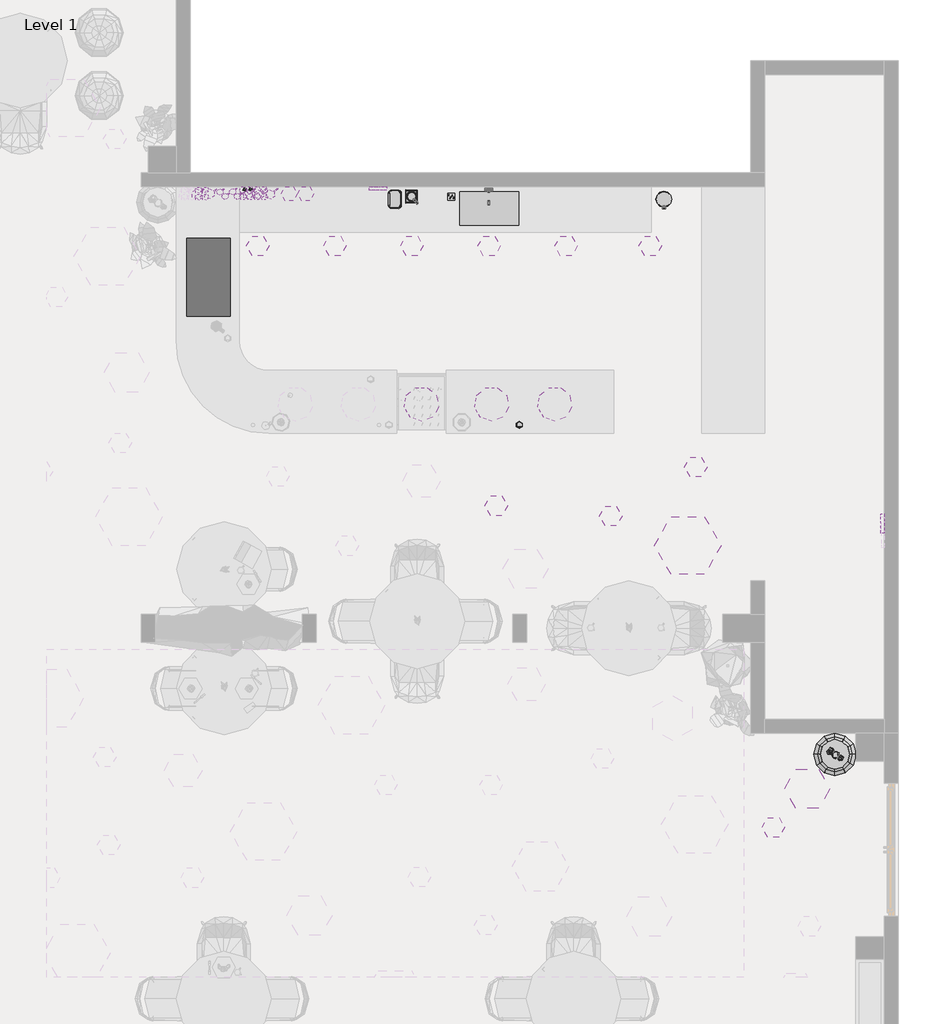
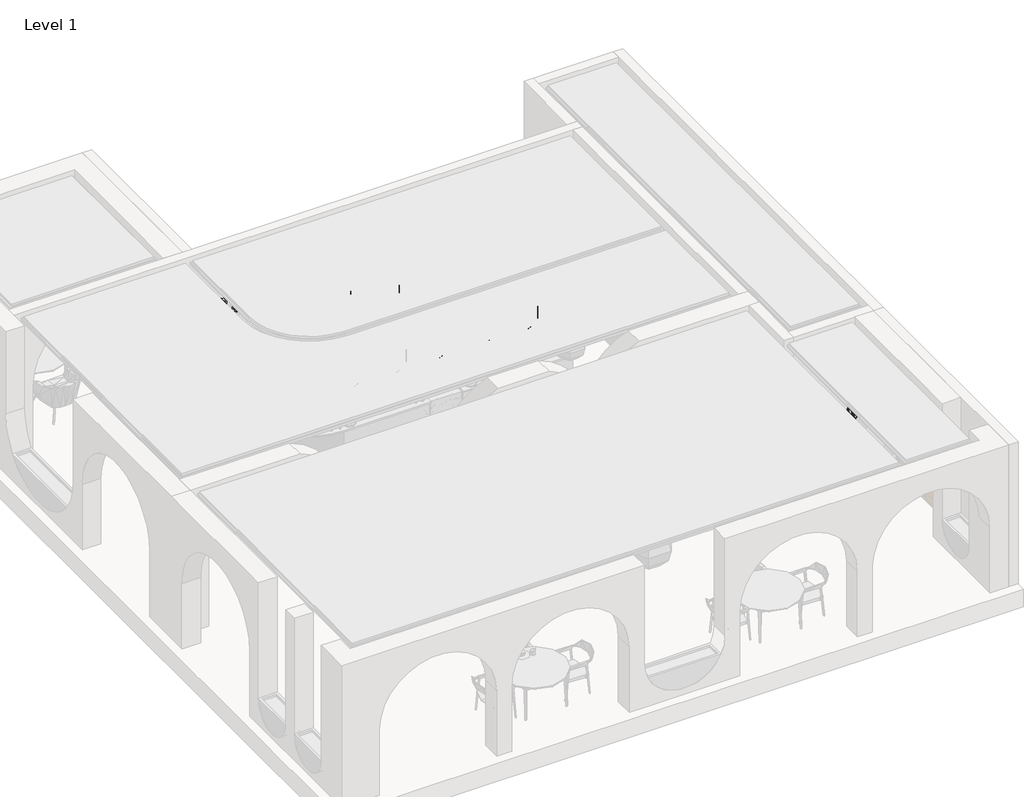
# One storey, part 5 of 5: 62 geographic elements, 2 proxies.
"""IFC4 building model written with IfcOpenShell, lengths in millimetres."""

from ifc_helpers import new_model, si_unit, frame, origin, place, context, project, spatial, polyline, outline, extrude, transform, mapped, element, save
from components import geographic_element_da99fc47, geographic_element_7c99d2c4, geographic_element_02dd20bf, geographic_element_f51f05aa, geographic_element_73b1dc01, geographic_element_66572eef, geographic_element_eaedea96, enscape_assetdefinition_basket_003_enscape_assetdefinition_82603852, enscape_assetdefinition_coffee_maker_001_enscape_8fe14100, enscape_assetdefinition_coffee_maker_003_enscape_548c8cb7, enscape_assetdefinition_coffee_maker_005_enscape_c3ac5309, enscape_assetdefinition_cup_001_enscape_assetdefinition_cup_e3f5b286, enscape_assetdefinition_cup_009_paper_big_enscape_90dbc6f4, enscape_assetdefinition_faucet_010_enscape_assetdefinition_639291e5, enscape_assetdefinition_floor_lamp_016_enscape_4e544922, enscape_assetdefinition_floor_lamp_016_enscape_559c5179, enscape_assetdefinition_floor_lamp_016_enscape_838fbf4e, enscape_assetdefinition_glass_006_enscape_assetdefinition_72c5cc0c, enscape_assetdefinition_kitchen_appliance_013_toaster_69132773, enscape_assetdefinition_pendant_lamp_001_enscape_e6839370, enscape_assetdefinition_plate_004_stack_enscape_c0378672, enscape_assetdefinition_refrigerator_002_enscape_642a04e6, enscape_assetdefinition_sink_010_enscape_assetdefinition_5691a6b0

model = new_model("IFC4")

# Units and contexts
model_context = context("Model", 3, world=origin())
ifc_project = project(units=[si_unit("LENGTHUNIT", "METRE", prefix="MILLI")], contexts=[model_context])

# Site, building, storey
site = spatial("IfcSite", under=ifc_project)
building = spatial("IfcBuilding", under=site)
storey = spatial("IfcBuildingStorey", under=building, Name="Level 1", Elevation=0.0)

# Proxies
placement = place(None, origin())
element("IfcBuildingElementProxy", 1, Name="24\" Arial", ObjectType="24\" Arial", at=placement, inside=storey, context=model_context, shape_type="SweptSolid", body=[
    extrude(outline(polyline([(2009.3473185, 18144.6647483), (2009.3473185, 17967.1264335), (1709.3989174, 17967.1264335), (1709.3989174, 18144.6647483), (1724.650531, 18144.6647483), (1724.650531, 17987.4619183), (1851.7473112, 17987.4619183), (1851.7473112, 18118.2921664), (1866.9989248, 18118.2921664), (1866.9989248, 17987.4619183), (1994.0957049, 17987.4619183), (1994.0957049, 18144.6647483), (2009.3473185, 18144.6647483)])), frame((0.0, 9260.3600826, 0.0), z_axis=(0.0, 1.0, 0.0), x_axis=(0.0, 0.0, 1.0)), (0.0, 0.0, 1.0), 50.0),
    extrude(outline(polyline([(1724.650531, 18236.5716074), (2009.3473185, 18236.5716074), (2009.3473185, 18216.2361226), (1709.3989174, 18216.2361226), (1709.3989174, 18378.1256463), (1724.650531, 18378.1256463), (1724.650531, 18236.5716074)])), frame((0.0, 9260.3600826, 0.0), z_axis=(0.0, 1.0, 0.0), x_axis=(0.0, 0.0, 1.0)), (0.0, 0.0, 1.0), 50.0),
    extrude(outline(polyline([(1754.5977098, 18723.9877593), (1754.0813792, 18721.7635656), (1752.6912581, 18719.7776784), (1738.3928704, 18701.8252582), (1728.0265392, 18682.2046928), (1721.6717002, 18659.0889659), (1719.5666598, 18630.5716259), (1721.9199361, 18605.9267658), (1728.9797651, 18583.1486398), (1740.4383342, 18562.7635078), (1755.9878309, 18545.2976299), (1775.5488197, 18531.019101), (1799.0418651, 18520.1960158), (1826.2385902, 18513.3744933), (1856.9106179, 18511.1006525), (1886.9074439, 18513.3943522), (1913.8261447, 18520.2754513), (1937.3191902, 18531.2772664), (1957.03905, 18545.9331138), (1972.8169237, 18563.9848284), (1984.4840109, 18585.1742447), (1991.6927814, 18609.0545382), (1994.0957049, 18635.1788841), (1991.8715113, 18661.551466), (1986.3904626, 18682.0061041), (1979.2412687, 18697.2974354), (1972.0523571, 18708.2595327), (1966.5713085, 18715.7661863), (1964.3868326, 18720.6514688), (1966.8493327, 18725.894211), (1976.3815912, 18732.4079209), (1991.5537693, 18712.1915894), (2001.6420763, 18690.1085238), (2007.3614314, 18664.8877565), (2009.3473185, 18635.1788841), (2006.5770059, 18604.0898202), (1998.266068, 18575.8008572), (1984.9209061, 18550.8084669), (1967.0479214, 18529.6091211), (1944.944997, 18512.6893623), (1918.9100159, 18500.5357327), (1889.4096617, 18493.2078089), (1856.9106179, 18490.7651677), (1823.9349611, 18493.1383029), (1794.1168649, 18500.2577085), (1767.9528012, 18511.9744429), (1745.9392417, 18528.1395646), (1728.2747751, 18548.3956139), (1715.1579903, 18572.3851312), (1707.0257822, 18599.5421385), (1704.3150462, 18629.3006581), (1706.8172641, 18663.3387645), (1713.9267402, 18691.8163868), (1726.3186763, 18715.7661863), (1744.03279, 18736.0619534), (1753.1678711, 18727.5623562), (1754.5977098, 18723.9877593)])), frame((0.0, 9260.3600826, 0.0), z_axis=(0.0, 1.0, 0.0), x_axis=(0.0, 0.0, 1.0)), (0.0, 0.0, 1.0), 50.0),
    extrude(outline(polyline([(1709.3989174, 18924.4034945), (1709.3989174, 18933.0619626), (1846.1073915, 18933.0619626), (1877.8815866, 18928.8915995), (1902.149128, 18916.4202279), (1917.5596126, 18895.5684125), (1922.921508, 18866.2567175), (1920.9356209, 18844.6006177), (1914.9779593, 18825.3871592), (1904.9095112, 18807.7822692), (1890.5912646, 18790.9518753), (1884.4747321, 18794.5264722), (1880.6618286, 18800.8813112), (1884.9116272, 18808.5468358), (1894.2055793, 18820.4224412), (1903.4598136, 18838.2159904), (1907.6698944, 18863.6353464), (1903.7974144, 18885.013422), (1892.1799743, 18900.3742595), (1873.3736227, 18909.6384232), (1847.9344078, 18912.7264778), (1826.3279551, 18912.7264778), (1820.2114226, 18852.4746604), (1806.2704945, 18811.4859488), (1796.8077421, 18797.664174), (1785.8158565, 18788.05248), (1773.5629325, 18782.4224898), (1760.3170649, 18780.5458264), (1734.8977089, 18785.1928024), (1717.5807726, 18797.505303), (1707.5719012, 18815.1002635), (1704.3150462, 18835.5946193), (1707.6116189, 18858.750064), (1715.5154499, 18878.3706294), (1726.8747247, 18895.8464367), (1742.1263383, 18912.7264778), (1715.2771435, 18915.9038973), (1710.8684739, 18918.8231514), (1709.3989174, 18924.4034945)]), holes=[polyline([(1719.5666598, 18841.6317164), (1721.9100067, 18826.2212318), (1729.297507, 18813.2732473), (1742.166056, 18804.2970372), (1760.7142424, 18800.8813112), (1771.4578921, 18802.4998093), (1780.9702917, 18807.3553035), (1796.3013408, 18827.5319173), (1806.4690832, 18862.3643786), (1811.0763415, 18912.7264778), (1755.5509357, 18912.7264778), (1741.2128302, 18898.1103481), (1729.7344022, 18882.1438151), (1722.2277486, 18863.5956287), (1719.5666598, 18841.6317164)])]), frame((0.0, 9260.3600826, 0.0), z_axis=(0.0, 1.0, 0.0), x_axis=(0.0, 0.0, 1.0)), (0.0, 0.0, 1.0), 50.0),
    extrude(outline(polyline([(1709.3989174, 19004.2361595), (1709.3989174, 19024.5716443), (1897.502152, 19024.5716443), (1897.502152, 19092.2506797), (1912.7537656, 19092.2506797), (1912.7537656, 19024.5716443), (1938.1731217, 19024.5716443), (1964.2676793, 19028.027088), (1981.5051801, 19037.8373707), (1991.1168741, 19052.9301134), (1994.0957049, 19071.9946304), (1993.460221, 19082.6787035), (1992.8247371, 19089.5498732), (1995.6844147, 19093.5216475), (2005.0578022, 19094.1571314), (2008.2352217, 19082.440397), (2009.3473185, 19069.2938238), (2004.938649, 19043.0006774), (1991.6729226, 19022.4666039), (1969.5104215, 19009.0420065), (1938.7291701, 19004.2361595), (1912.7537656, 19004.2361595), (1912.7537656, 18968.5696256), (1904.4924749, 18968.5696256), (1900.759007, 18970.0987587), (1899.2497327, 18974.6861581), (1897.343281, 19004.2361595), (1709.3989174, 19004.2361595)])), frame((0.0, 9260.3600826, 0.0), z_axis=(0.0, 1.0, 0.0), x_axis=(0.0, 0.0, 1.0)), (0.0, 0.0, 1.0), 50.0),
    extrude(outline(polyline([(1922.921508, 19213.5486693), (1920.9455503, 19192.9252308), (1915.017677, 19174.5855626), (1905.5946423, 19158.7282534), (1893.1332002, 19145.5518919), (1877.82201, 19135.1061253), (1859.8497309, 19127.4406007), (1839.6532582, 19122.7340481), (1817.669487, 19121.1651972), (1792.09126, 19122.9227074), (1769.5315815, 19128.1952379), (1750.1195342, 19136.6551173), (1733.9842008, 19147.9746743), (1721.2149462, 19161.9652495), (1711.9011353, 19178.4381838), (1706.2115685, 19197.1055234), (1704.3150462, 19217.6793146), (1706.5392398, 19241.2319367), (1712.4571837, 19263.1561313), (1721.552547, 19281.7043176), (1733.3089992, 19295.128915), (1740.0610156, 19289.6478664), (1742.2057738, 19285.4377856), (1738.7106123, 19278.6460514), (1730.8862168, 19266.0952443), (1723.0618213, 19246.5938321), (1719.5666598, 19219.1885889), (1721.1255813, 19202.3085478), (1725.8023456, 19187.0966519), (1733.5572351, 19173.7912077), (1744.3505319, 19162.6305217), (1758.1425185, 19153.6840999), (1774.8934769, 19147.0214484), (1817.1928741, 19141.500682), (1821.2440839, 19141.500682), (1821.2440839, 19288.5357696), (1822.9519469, 19292.7061327), (1829.4259392, 19294.0168182), (1850.6352143, 19292.4976145), (1869.3025539, 19287.9400034), (1885.3187341, 19280.6815857), (1898.5745311, 19271.0599623), (1909.0401566, 19259.2836513), (1916.6858223, 19245.5611708), (1921.3625866, 19230.2102628), (1922.921508, 19213.5486693)]), holes=[polyline([(1907.6698944, 19212.4365725), (1902.7846119, 19237.3793156), (1888.7245306, 19256.7218568), (1866.3634409, 19269.2329461), (1836.4956975, 19273.6813334), (1836.4956975, 19141.500682), (1865.8073925, 19148.8484646), (1888.2876355, 19163.3454411), (1902.6654587, 19184.6341518), (1907.6698944, 19212.4365725)])]), frame((0.0, 9260.3600826, 0.0), z_axis=(0.0, 1.0, 0.0), x_axis=(0.0, 0.0, 1.0)), (0.0, 0.0, 1.0), 50.0),
])
element("IfcBuildingElementProxy", 2, Name="24\" Arial 2", ObjectType="24\" Arial 2", at=placement, inside=storey, context=model_context, shape_type="SweptSolid", body=[
    extrude(outline(polyline([(4642.2411755, 2227.7660995), (4579.1811135, 2026.825345), (4566.3562401, 2026.825345), (4507.1276756, 2200.413465), (4505.1587116, 2207.5975227), (4503.1365324, 2200.413465), (4444.0676136, 2026.825345), (4431.0830945, 2026.825345), (4368.1826783, 2227.7660995), (4379.1982334, 2227.7660995), (4382.6572242, 2226.6485794), (4384.5729729, 2223.9878173), (4435.0210225, 2059.6059342), (4436.4312264, 2053.5660042), (4437.7349998, 2046.9939218), (4439.198419, 2053.6458271), (4440.9811296, 2059.6059342), (4497.4957168, 2223.9878173), (4499.4646807, 2226.7017946), (4502.7108105, 2227.7660995), (4506.7019537, 2227.7660995), (4510.0811215, 2226.6485794), (4512.0766931, 2223.9878173), (4568.5912803, 2059.6059342), (4570.294168, 2053.4861814), (4571.7309796, 2046.7278456), (4573.0613606, 2053.4861814), (4574.5513874, 2059.6059342), (4624.999437, 2223.9878173), (4630.2145307, 2227.7660995), (4642.2411755, 2227.7660995)])), frame((25785.1576528, 0.0, 0.0), z_axis=(1.0, 0.0, 0.0), x_axis=(0.0, 1.0, 0.0)), (0.0, 0.0, 1.0), 50.0),
    extrude(outline(polyline([(4192.8384553, 2056.9318683), (4194.9138498, 2055.827652), (4206.9404945, 2046.2489084), (4220.0846593, 2039.3043193), (4235.5702948, 2035.0471), (4254.6745667, 2033.636896), (4271.1845956, 2035.2133976), (4286.4440663, 2039.9429022), (4300.1004278, 2047.6192009), (4311.8011292, 2058.0360846), (4321.366569, 2071.140338), (4328.6171457, 2086.8787458), (4333.1870047, 2105.0983144), (4334.710291, 2125.6460497), (4333.1737008, 2145.7414556), (4328.5639305, 2163.7747708), (4321.1936195, 2179.5131786), (4311.3754073, 2192.7238625), (4299.2822435, 2203.29374), (4285.0870776, 2211.1097287), (4269.0892455, 2215.9390119), (4251.5880827, 2217.548773), (4233.9206223, 2216.0587462), (4220.2176974, 2212.3868945), (4209.9737633, 2207.5975227), (4202.6300599, 2202.7815433), (4197.6012195, 2199.1096916), (4194.3284821, 2197.6462724), (4190.8162761, 2199.2959449), (4186.4526263, 2205.681774), (4199.9959054, 2215.8458852), (4214.7897427, 2222.604221), (4231.6855821, 2226.4357184), (4251.5880827, 2227.7660995), (4272.4151981, 2225.9102179), (4291.3664762, 2220.3425732), (4308.1093218, 2211.4024125), (4322.3111395, 2199.428983), (4333.6459861, 2184.6218419), (4341.7879182, 2167.1805463), (4346.6970243, 2147.4177357), (4348.333393, 2125.6460497), (4346.7435876, 2103.5550723), (4341.9741715, 2083.5794008), (4334.1249233, 2066.0516304), (4323.2956215, 2051.3043564), (4309.7257348, 2039.470617), (4293.6547316, 2030.6834501), (4275.4617707, 2025.2355397), (4255.5260106, 2023.4195695), (4232.7232794, 2025.0958497), (4213.645615, 2029.8586138), (4197.6012195, 2038.1601916), (4184.0047251, 2050.0271906), (4189.6987561, 2056.1469435), (4192.8384553, 2056.9318683)])), frame((25785.1576528, 0.0, 0.0), z_axis=(1.0, 0.0, 0.0), x_axis=(0.0, 1.0, 0.0)), (0.0, 0.0, 1.0), 50.0),
])

# Geographic elements
geographic_element_shape = geographic_element_da99fc47(model_context)
element("IfcGeographicElement", 3, ObjectType="Enscape AssetDefinition - Food 022 Pastry : Enscape AssetDefinition - Food 022 Pastry", at=placement, inside=storey, context=model_context, shape_type="MappedRepresentation", body=[
    mapped(geographic_element_shape, transform((19505.1689379, 6226.4243187, 564.8412029), x_axis=(-1.0, 0.0, 0.0), y_axis=(0.0, -0.9822819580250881, -0.18740905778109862), z_axis=(0.0, -0.18740905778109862, 0.9822819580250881))),
])
element("IfcGeographicElement", 4, ObjectType="Enscape AssetDefinition - Food 022 Pastry : Enscape AssetDefinition - Food 022 Pastry", at=placement, inside=storey, context=model_context, shape_type="MappedRepresentation", body=[
    mapped(geographic_element_shape, transform((19506.0066809, 6315.630467, 581.860797), x_axis=(-1.0, 0.0, 0.0), y_axis=(0.0, -0.9822819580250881, -0.18740905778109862), z_axis=(0.0, -0.18740905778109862, 0.9822819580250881))),
])
geographic_element_2_shape = geographic_element_7c99d2c4(model_context)
element("IfcGeographicElement", 5, ObjectType="Enscape AssetDefinition - Food 019 Pastry : Enscape AssetDefinition - Food 019 Pastry", at=placement, inside=storey, context=model_context, shape_type="MappedRepresentation", body=[
    mapped(geographic_element_2_shape, transform((19140.8430531, 6257.7496797, 425.8177521), x_axis=(-1.0, 0.0, 0.0), y_axis=(0.0, -0.982281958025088, -0.18740905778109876), z_axis=(0.0, -0.18740905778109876, 0.982281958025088))),
])
element("IfcGeographicElement", 6, ObjectType="Enscape AssetDefinition - Food 019 Pastry : Enscape AssetDefinition - Food 019 Pastry", at=placement, inside=storey, context=model_context, shape_type="MappedRepresentation", body=[
    mapped(geographic_element_2_shape, transform((19142.4940629, 6426.3937052, 457.9932569), x_axis=(-1.0, 0.0, 0.0), y_axis=(0.0, -0.982281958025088, -0.18740905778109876), z_axis=(0.0, -0.18740905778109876, 0.982281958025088))),
])
element("IfcGeographicElement", 7, ObjectType="Enscape AssetDefinition - Food 019 Pastry : Enscape AssetDefinition - Food 019 Pastry", at=placement, inside=storey, context=model_context, shape_type="MappedRepresentation", body=[
    mapped(geographic_element_2_shape, transform((19139.6363829, 6092.9631165, 394.3782104), x_axis=(-1.0, 0.0, 0.0), y_axis=(0.0, -0.982281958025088, -0.18740905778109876), z_axis=(0.0, -0.18740905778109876, 0.982281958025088))),
])
element("IfcGeographicElement", 8, ObjectType="Enscape AssetDefinition - Food 019 Pastry : Enscape AssetDefinition - Food 019 Pastry", at=placement, inside=storey, context=model_context, shape_type="MappedRepresentation", body=[
    mapped(geographic_element_2_shape, transform((19304.5930531, 6257.7496797, 425.8177521), x_axis=(-1.0, 0.0, 0.0), y_axis=(0.0, -0.982281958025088, -0.18740905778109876), z_axis=(0.0, -0.18740905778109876, 0.982281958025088))),
])
element("IfcGeographicElement", 9, ObjectType="Enscape AssetDefinition - Food 019 Pastry : Enscape AssetDefinition - Food 019 Pastry", at=placement, inside=storey, context=model_context, shape_type="MappedRepresentation", body=[
    mapped(geographic_element_2_shape, transform((19306.2440629, 6426.3937052, 457.9932569), x_axis=(-1.0, 0.0, 0.0), y_axis=(0.0, -0.982281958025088, -0.18740905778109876), z_axis=(0.0, -0.18740905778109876, 0.982281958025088))),
])
element("IfcGeographicElement", 10, ObjectType="Enscape AssetDefinition - Food 019 Pastry : Enscape AssetDefinition - Food 019 Pastry", at=placement, inside=storey, context=model_context, shape_type="MappedRepresentation", body=[
    mapped(geographic_element_2_shape, transform((19303.3863829, 6092.9631165, 394.3782104), x_axis=(-1.0, 0.0, 0.0), y_axis=(0.0, -0.982281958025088, -0.18740905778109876), z_axis=(0.0, -0.18740905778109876, 0.982281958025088))),
])
element("IfcGeographicElement", 11, ObjectType="Enscape AssetDefinition - Food 019 Pastry : Enscape AssetDefinition - Food 019 Pastry", at=placement, inside=storey, context=model_context, shape_type="MappedRepresentation", body=[
    mapped(geographic_element_2_shape, transform((19469.5930531, 6257.7496797, 425.8177521), x_axis=(-1.0, 0.0, 0.0), y_axis=(0.0, -0.982281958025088, -0.18740905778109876), z_axis=(0.0, -0.18740905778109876, 0.982281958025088))),
])
element("IfcGeographicElement", 12, ObjectType="Enscape AssetDefinition - Food 019 Pastry : Enscape AssetDefinition - Food 019 Pastry", at=placement, inside=storey, context=model_context, shape_type="MappedRepresentation", body=[
    mapped(geographic_element_2_shape, transform((19471.2440629, 6426.3937052, 457.9932569), x_axis=(-1.0, 0.0, 0.0), y_axis=(0.0, -0.982281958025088, -0.18740905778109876), z_axis=(0.0, -0.18740905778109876, 0.982281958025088))),
])
element("IfcGeographicElement", 13, ObjectType="Enscape AssetDefinition - Food 019 Pastry : Enscape AssetDefinition - Food 019 Pastry", at=placement, inside=storey, context=model_context, shape_type="MappedRepresentation", body=[
    mapped(geographic_element_2_shape, transform((19468.3863829, 6092.9631165, 394.3782104), x_axis=(-1.0, 0.0, 0.0), y_axis=(0.0, -0.982281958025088, -0.18740905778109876), z_axis=(0.0, -0.18740905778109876, 0.982281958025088))),
])
geographic_element_3_shape = geographic_element_02dd20bf(model_context)
element("IfcGeographicElement", 14, ObjectType="Enscape AssetDefinition - Kitchen Appliance 005 Blender : Enscape AssetDefinition - Kitchen Appliance 005 Blender", at=placement, inside=storey, context=model_context, shape_type="MappedRepresentation", body=[
    mapped(geographic_element_3_shape, transform((19095.1576528, 9170.3600826, 880.0), x_axis=(1.0, 0.0, 0.0), y_axis=(0.0, 1.0, 0.0), z_axis=(0.0, 0.0, 1.0))),
])
geographic_element_4_shape = geographic_element_f51f05aa(model_context)
element("IfcGeographicElement", 15, ObjectType="Enscape AssetDefinition - Grinder 003 Pepper : Enscape AssetDefinition - Grinder 003 Pepper", at=placement, inside=storey, context=model_context, shape_type="MappedRepresentation", body=[
    mapped(geographic_element_4_shape, transform((16795.1576528, 9270.3600826, 880.0), x_axis=(1.0, 0.0, 0.0), y_axis=(0.0, 1.0, 0.0), z_axis=(0.0, 0.0, 1.0))),
])
element("IfcGeographicElement", 16, ObjectType="Enscape AssetDefinition - Grinder 003 Pepper : Enscape AssetDefinition - Grinder 003 Pepper", at=placement, inside=storey, context=model_context, shape_type="MappedRepresentation", body=[
    mapped(geographic_element_4_shape, transform((16715.1576528, 9270.3600826, 880.0), x_axis=(1.0, 0.0, 0.0), y_axis=(0.0, 1.0, 0.0), z_axis=(0.0, 0.0, 1.0))),
])
geographic_element_5_shape = geographic_element_73b1dc01(model_context)
element("IfcGeographicElement", 17, ObjectType="Enscape AssetDefinition - Garbage Can 006 Bathroom : Enscape AssetDefinition - Garbage Can 006 Bathroom", at=placement, inside=storey, context=model_context, shape_type="MappedRepresentation", body=[
    mapped(geographic_element_5_shape, transform((22695.1576528, 9130.3600826, 0.0), x_axis=(1.0, 0.0, 0.0), y_axis=(0.0, 1.0, 0.0), z_axis=(0.0, 0.0, 1.0))),
])
geographic_element_6_shape = geographic_element_66572eef(model_context)
element("IfcGeographicElement", 18, ObjectType="Enscape AssetDefinition - Kitchen Tool 016 Knife Block : Enscape AssetDefinition - Kitchen Tool 016 Knife Block", at=placement, inside=storey, context=model_context, shape_type="MappedRepresentation", body=[
    mapped(geographic_element_6_shape, transform((19658.3914911, 9170.3600826, 880.0), x_axis=(1.0, 0.0, 0.0), y_axis=(0.0, 1.0, 0.0), z_axis=(0.0, 0.0, 1.0))),
])
geographic_element_7_shape = geographic_element_eaedea96(model_context)
element("IfcGeographicElement", 19, ObjectType="Enscape AssetDefinition - Potted Plant 002 Cactus : Enscape AssetDefinition - Potted Plant 002 Cactus", at=placement, inside=storey, context=model_context, shape_type="MappedRepresentation", body=[
    mapped(geographic_element_7_shape, transform((25135.1576801, 1210.3600826, 0.0), x_axis=(0.8191520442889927, -0.5735764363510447, 0.0), y_axis=(0.5735764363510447, 0.8191520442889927, 0.0), z_axis=(0.0, 0.0, 1.0))),
])
enscape_assetdefinition_basket_003_enscape_assetdefinition_shape = enscape_assetdefinition_basket_003_enscape_assetdefinition_82603852(model_context)
element("IfcGeographicElement", 20, ObjectType="Enscape AssetDefinition - Basket 003 : Enscape AssetDefinition - Basket 003 2", at=placement, inside=storey, context=model_context, shape_type="MappedRepresentation", body=[
    mapped(enscape_assetdefinition_basket_003_enscape_assetdefinition_shape, transform((25135.1576528, 1210.3600826, 0.0), x_axis=(1.0, 0.0, 0.0), y_axis=(0.0, 1.0, 0.0), z_axis=(0.0, 0.0, 1.0))),
])
enscape_assetdefinition_coffee_maker_001_enscape_shape = enscape_assetdefinition_coffee_maker_001_enscape_8fe14100(model_context)
element("IfcGeographicElement", 21, ObjectType="Enscape AssetDefinition - Coffee Maker 001 : Enscape AssetDefinition - Coffee Maker 001", at=placement, inside=storey, context=model_context, shape_type="MappedRepresentation", body=[
    mapped(enscape_assetdefinition_coffee_maker_001_enscape_shape, transform((16036.6806951, 9210.7377386, 2000.0), x_axis=(-0.8290375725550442, -0.5591929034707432, 0.0), y_axis=(0.5591929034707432, -0.8290375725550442, 0.0), z_axis=(0.0, 0.0, 1.0))),
])
element("IfcGeographicElement", 22, ObjectType="Enscape AssetDefinition - Coffee Maker 001 : Enscape AssetDefinition - Coffee Maker 001", at=placement, inside=storey, context=model_context, shape_type="MappedRepresentation", body=[
    mapped(enscape_assetdefinition_coffee_maker_001_enscape_shape, transform((16216.6806951, 9210.7377386, 2000.0), x_axis=(-0.8290375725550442, -0.5591929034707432, 0.0), y_axis=(0.5591929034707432, -0.8290375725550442, 0.0), z_axis=(0.0, 0.0, 1.0))),
])
enscape_assetdefinition_coffee_maker_003_enscape_shape = enscape_assetdefinition_coffee_maker_003_enscape_548c8cb7(model_context)
element("IfcGeographicElement", 23, ObjectType="Enscape AssetDefinition - Coffee Maker 003 : Enscape AssetDefinition - Coffee Maker 003", at=placement, inside=storey, context=model_context, shape_type="MappedRepresentation", body=[
    mapped(enscape_assetdefinition_coffee_maker_003_enscape_shape, transform((16758.4765654, 9196.6096961, 2000.0), x_axis=(0.7771459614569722, 0.6293203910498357, 0.0), y_axis=(-0.6293203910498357, 0.7771459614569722, 0.0), z_axis=(0.0, 0.0, 1.0))),
])
element("IfcGeographicElement", 24, ObjectType="Enscape AssetDefinition - Coffee Maker 003 : Enscape AssetDefinition - Coffee Maker 003", at=placement, inside=storey, context=model_context, shape_type="MappedRepresentation", body=[
    mapped(enscape_assetdefinition_coffee_maker_003_enscape_shape, transform((16918.4765654, 9196.6096961, 2000.0), x_axis=(0.7771459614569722, 0.6293203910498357, 0.0), y_axis=(-0.6293203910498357, 0.7771459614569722, 0.0), z_axis=(0.0, 0.0, 1.0))),
])
element("IfcGeographicElement", 25, ObjectType="Enscape AssetDefinition - Coffee Maker 003 : Enscape AssetDefinition - Coffee Maker 003", at=placement, inside=storey, context=model_context, shape_type="MappedRepresentation", body=[
    mapped(enscape_assetdefinition_coffee_maker_003_enscape_shape, transform((17078.4765654, 9196.6096961, 2000.0), x_axis=(0.7771459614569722, 0.6293203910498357, 0.0), y_axis=(-0.6293203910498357, 0.7771459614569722, 0.0), z_axis=(0.0, 0.0, 1.0))),
])
enscape_assetdefinition_coffee_maker_005_enscape_shape = enscape_assetdefinition_coffee_maker_005_enscape_c3ac5309(model_context)
element("IfcGeographicElement", 26, ObjectType="Enscape AssetDefinition - Coffee Maker 005 : Enscape AssetDefinition - Coffee Maker 005", at=placement, inside=storey, context=model_context, shape_type="MappedRepresentation", body=[
    mapped(enscape_assetdefinition_coffee_maker_005_enscape_shape, transform((16115.1576528, 8020.3600826, 980.0), x_axis=(0.0, 1.0, 0.0), y_axis=(-1.0, 0.0, 0.0), z_axis=(0.0, 0.0, 1.0))),
])
enscape_assetdefinition_cup_001_enscape_assetdefinition_cup_shape = enscape_assetdefinition_cup_001_enscape_assetdefinition_cup_e3f5b286(model_context)
element("IfcGeographicElement", 27, ObjectType="Enscape AssetDefinition - Cup 001 : Enscape AssetDefinition - Cup 001", at=placement, inside=storey, context=model_context, shape_type="MappedRepresentation", body=[
    mapped(enscape_assetdefinition_cup_001_enscape_assetdefinition_cup_shape, transform((16360.1934928, 9234.6622458, 2000.0), x_axis=(0.7770692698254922, 0.6294150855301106, 0.0), y_axis=(-0.6294150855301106, 0.7770692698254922, 0.0), z_axis=(0.0, 0.0, 1.0))),
])
element("IfcGeographicElement", 28, ObjectType="Enscape AssetDefinition - Cup 001 : Enscape AssetDefinition - Cup 001", at=placement, inside=storey, context=model_context, shape_type="MappedRepresentation", body=[
    mapped(enscape_assetdefinition_cup_001_enscape_assetdefinition_cup_shape, transform((16433.694837, 9172.7045614, 2000.0), x_axis=(0.7770692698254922, 0.6294150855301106, 0.0), y_axis=(-0.6294150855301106, 0.7770692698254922, 0.0), z_axis=(0.0, 0.0, 1.0))),
])
element("IfcGeographicElement", 29, ObjectType="Enscape AssetDefinition - Cup 001 : Enscape AssetDefinition - Cup 001", at=placement, inside=storey, context=model_context, shape_type="MappedRepresentation", body=[
    mapped(enscape_assetdefinition_cup_001_enscape_assetdefinition_cup_shape, transform((16540.0121169, 9239.0218412, 2000.0), x_axis=(0.7770692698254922, 0.6294150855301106, 0.0), y_axis=(-0.6294150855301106, 0.7770692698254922, 0.0), z_axis=(0.0, 0.0, 1.0))),
])
element("IfcGeographicElement", 30, ObjectType="Enscape AssetDefinition - Cup 001 : Enscape AssetDefinition - Cup 001", at=placement, inside=storey, context=model_context, shape_type="MappedRepresentation", body=[
    mapped(enscape_assetdefinition_cup_001_enscape_assetdefinition_cup_shape, transform((16608.694837, 9172.7045614, 2000.0), x_axis=(0.7770692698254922, 0.6294150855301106, 0.0), y_axis=(-0.6294150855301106, 0.7770692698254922, 0.0), z_axis=(0.0, 0.0, 1.0))),
])
enscape_assetdefinition_cup_009_paper_big_enscape_shape = enscape_assetdefinition_cup_009_paper_big_enscape_90dbc6f4(model_context)
element("IfcGeographicElement", 31, ObjectType="Enscape AssetDefinition - Cup 009 Paper Big : Enscape AssetDefinition - Cup 009 Paper Big", at=placement, inside=storey, context=model_context, shape_type="MappedRepresentation", body=[
    mapped(enscape_assetdefinition_cup_009_paper_big_enscape_shape, transform((16990.1576528, 9262.8600826, 1750.0), x_axis=(0.0, 1.0, 0.0), y_axis=(-1.0, 0.0, 0.0), z_axis=(0.0, 0.0, 1.0))),
])
element("IfcGeographicElement", 32, ObjectType="Enscape AssetDefinition - Cup 009 Paper Big : Enscape AssetDefinition - Cup 009 Paper Big", at=placement, inside=storey, context=model_context, shape_type="MappedRepresentation", body=[
    mapped(enscape_assetdefinition_cup_009_paper_big_enscape_shape, transform((16890.1576528, 9262.8600826, 1750.0), x_axis=(0.0, 1.0, 0.0), y_axis=(-1.0, 0.0, 0.0), z_axis=(0.0, 0.0, 1.0))),
])
element("IfcGeographicElement", 33, ObjectType="Enscape AssetDefinition - Cup 009 Paper Big : Enscape AssetDefinition - Cup 009 Paper Big", at=placement, inside=storey, context=model_context, shape_type="MappedRepresentation", body=[
    mapped(enscape_assetdefinition_cup_009_paper_big_enscape_shape, transform((16790.1576528, 9262.8600826, 1750.0), x_axis=(0.0, 1.0, 0.0), y_axis=(-1.0, 0.0, 0.0), z_axis=(0.0, 0.0, 1.0))),
])
element("IfcGeographicElement", 34, ObjectType="Enscape AssetDefinition - Cup 009 Paper Big : Enscape AssetDefinition - Cup 009 Paper Big", at=placement, inside=storey, context=model_context, shape_type="MappedRepresentation", body=[
    mapped(enscape_assetdefinition_cup_009_paper_big_enscape_shape, transform((16690.1576528, 9262.8600826, 1750.0), x_axis=(0.0, 1.0, 0.0), y_axis=(-1.0, 0.0, 0.0), z_axis=(0.0, 0.0, 1.0))),
])
element("IfcGeographicElement", 35, ObjectType="Enscape AssetDefinition - Cup 009 Paper Big : Enscape AssetDefinition - Cup 009 Paper Big", at=placement, inside=storey, context=model_context, shape_type="MappedRepresentation", body=[
    mapped(enscape_assetdefinition_cup_009_paper_big_enscape_shape, transform((16690.1576528, 9167.8600826, 1750.0), x_axis=(0.0, 1.0, 0.0), y_axis=(-1.0, 0.0, 0.0), z_axis=(0.0, 0.0, 1.0))),
])
element("IfcGeographicElement", 36, ObjectType="Enscape AssetDefinition - Cup 009 Paper Big : Enscape AssetDefinition - Cup 009 Paper Big", at=placement, inside=storey, context=model_context, shape_type="MappedRepresentation", body=[
    mapped(enscape_assetdefinition_cup_009_paper_big_enscape_shape, transform((16990.1576528, 9167.8600826, 1750.0), x_axis=(0.0, 1.0, 0.0), y_axis=(-1.0, 0.0, 0.0), z_axis=(0.0, 0.0, 1.0))),
])
element("IfcGeographicElement", 37, ObjectType="Enscape AssetDefinition - Cup 009 Paper Big : Enscape AssetDefinition - Cup 009 Paper Big", at=placement, inside=storey, context=model_context, shape_type="MappedRepresentation", body=[
    mapped(enscape_assetdefinition_cup_009_paper_big_enscape_shape, transform((16890.1576528, 9167.8600826, 1750.0), x_axis=(0.0, 1.0, 0.0), y_axis=(-1.0, 0.0, 0.0), z_axis=(0.0, 0.0, 1.0))),
])
element("IfcGeographicElement", 38, ObjectType="Enscape AssetDefinition - Cup 009 Paper Big : Enscape AssetDefinition - Cup 009 Paper Big", at=placement, inside=storey, context=model_context, shape_type="MappedRepresentation", body=[
    mapped(enscape_assetdefinition_cup_009_paper_big_enscape_shape, transform((16790.1576528, 9167.8600826, 1750.0), x_axis=(0.0, 1.0, 0.0), y_axis=(-1.0, 0.0, 0.0), z_axis=(0.0, 0.0, 1.0))),
])
element("IfcGeographicElement", 39, ObjectType="Enscape AssetDefinition - Cup 009 Paper Big : Enscape AssetDefinition - Cup 009 Paper Big", at=placement, inside=storey, context=model_context, shape_type="MappedRepresentation", body=[
    mapped(enscape_assetdefinition_cup_009_paper_big_enscape_shape, transform((20632.1369469, 5912.5496189, 980.0), x_axis=(1.0, 0.0, 0.0), y_axis=(0.0, 1.0, 0.0), z_axis=(0.0, 0.0, 1.0))),
])
enscape_assetdefinition_faucet_010_enscape_assetdefinition_shape = enscape_assetdefinition_faucet_010_enscape_assetdefinition_639291e5(model_context)
element("IfcGeographicElement", 40, ObjectType="Enscape AssetDefinition - Faucet 010 : Enscape AssetDefinition - Faucet 010", at=placement, inside=storey, context=model_context, shape_type="MappedRepresentation", body=[
    mapped(enscape_assetdefinition_faucet_010_enscape_assetdefinition_shape, transform((20195.1576528, 9270.3600826, 880.0), x_axis=(1.0, 0.0, 0.0), y_axis=(0.0, 1.0, 0.0), z_axis=(0.0, 0.0, 1.0))),
])
enscape_assetdefinition_floor_lamp_016_enscape_shape = enscape_assetdefinition_floor_lamp_016_enscape_4e544922(model_context)
element("IfcGeographicElement", 41, ObjectType="Enscape AssetDefinition - Floor Lamp 016 : Enscape AssetDefinition - Floor Lamp 016", at=placement, inside=storey, context=model_context, shape_type="MappedRepresentation", body=[
    mapped(enscape_assetdefinition_floor_lamp_016_enscape_shape, transform((23035.1576528, 4190.3600826, 3100.0), x_axis=(-1.0, 0.0, 0.0), y_axis=(0.0, 1.0, 0.0), z_axis=(0.0, 0.0, -1.0))),
])
enscape_assetdefinition_floor_lamp_016_enscape_2_shape = enscape_assetdefinition_floor_lamp_016_enscape_559c5179(model_context)
element("IfcGeographicElement", 42, ObjectType="Enscape AssetDefinition - Floor Lamp 016 : Enscape AssetDefinition - Floor Lamp 016 3", at=placement, inside=storey, context=model_context, shape_type="MappedRepresentation", body=[
    mapped(enscape_assetdefinition_floor_lamp_016_enscape_2_shape, transform((24256.57378, 167.5503864, 3100.0), x_axis=(-1.0, 0.0, 0.0), y_axis=(0.0, 1.0, 0.0), z_axis=(0.0, 0.0, -1.0))),
])
element("IfcGeographicElement", 43, ObjectType="Enscape AssetDefinition - Floor Lamp 016 : Enscape AssetDefinition - Floor Lamp 016 3", at=placement, inside=storey, context=model_context, shape_type="MappedRepresentation", body=[
    mapped(enscape_assetdefinition_floor_lamp_016_enscape_2_shape, transform((21935.6723297, 4610.2281627, 3100.0), x_axis=(-1.0, 0.0, 0.0), y_axis=(0.0, 1.0, 0.0), z_axis=(0.0, 0.0, -1.0))),
])
element("IfcGeographicElement", 44, ObjectType="Enscape AssetDefinition - Floor Lamp 016 : Enscape AssetDefinition - Floor Lamp 016 3", at=placement, inside=storey, context=model_context, shape_type="MappedRepresentation", body=[
    mapped(enscape_assetdefinition_floor_lamp_016_enscape_2_shape, transform((23148.107895, 5310.2281627, 3100.0), x_axis=(-1.0, 0.0, 0.0), y_axis=(0.0, 1.0, 0.0), z_axis=(0.0, 0.0, -1.0))),
])
element("IfcGeographicElement", 45, ObjectType="Enscape AssetDefinition - Floor Lamp 016 : Enscape AssetDefinition - Floor Lamp 016 3", at=placement, inside=storey, context=model_context, shape_type="MappedRepresentation", body=[
    mapped(enscape_assetdefinition_floor_lamp_016_enscape_2_shape, transform((20301.389063, 4756.8820761, 3100.0), x_axis=(-1.0, 0.0, 0.0), y_axis=(0.0, 1.0, 0.0), z_axis=(0.0, 0.0, -1.0))),
])
element("IfcGeographicElement", 46, ObjectType="Enscape AssetDefinition - Floor Lamp 016 : Enscape AssetDefinition - Floor Lamp 016 3", at=placement, inside=storey, context=model_context, shape_type="MappedRepresentation", body=[
    mapped(enscape_assetdefinition_floor_lamp_016_enscape_2_shape, transform((16898.7888005, 8464.8721743, 3100.0), x_axis=(-1.0, 0.0, 0.0), y_axis=(0.0, 1.0, 0.0), z_axis=(0.0, 0.0, -1.0))),
])
element("IfcGeographicElement", 47, ObjectType="Enscape AssetDefinition - Floor Lamp 016 : Enscape AssetDefinition - Floor Lamp 016 3", at=placement, inside=storey, context=model_context, shape_type="MappedRepresentation", body=[
    mapped(enscape_assetdefinition_floor_lamp_016_enscape_2_shape, transform((17998.7888005, 8464.8721743, 3100.0), x_axis=(-1.0, 0.0, 0.0), y_axis=(0.0, 1.0, 0.0), z_axis=(0.0, 0.0, -1.0))),
])
element("IfcGeographicElement", 48, ObjectType="Enscape AssetDefinition - Floor Lamp 016 : Enscape AssetDefinition - Floor Lamp 016 3", at=placement, inside=storey, context=model_context, shape_type="MappedRepresentation", body=[
    mapped(enscape_assetdefinition_floor_lamp_016_enscape_2_shape, transform((19098.7888005, 8464.8721743, 3100.0), x_axis=(-1.0, 0.0, 0.0), y_axis=(0.0, 1.0, 0.0), z_axis=(0.0, 0.0, -1.0))),
])
element("IfcGeographicElement", 49, ObjectType="Enscape AssetDefinition - Floor Lamp 016 : Enscape AssetDefinition - Floor Lamp 016 3", at=placement, inside=storey, context=model_context, shape_type="MappedRepresentation", body=[
    mapped(enscape_assetdefinition_floor_lamp_016_enscape_2_shape, transform((20198.7888005, 8464.8721743, 3100.0), x_axis=(-1.0, 0.0, 0.0), y_axis=(0.0, 1.0, 0.0), z_axis=(0.0, 0.0, -1.0))),
])
element("IfcGeographicElement", 50, ObjectType="Enscape AssetDefinition - Floor Lamp 016 : Enscape AssetDefinition - Floor Lamp 016 3", at=placement, inside=storey, context=model_context, shape_type="MappedRepresentation", body=[
    mapped(enscape_assetdefinition_floor_lamp_016_enscape_2_shape, transform((21298.7888005, 8464.8721743, 3100.0), x_axis=(-1.0, 0.0, 0.0), y_axis=(0.0, 1.0, 0.0), z_axis=(0.0, 0.0, -1.0))),
])
element("IfcGeographicElement", 51, ObjectType="Enscape AssetDefinition - Floor Lamp 016 : Enscape AssetDefinition - Floor Lamp 016 3", at=placement, inside=storey, context=model_context, shape_type="MappedRepresentation", body=[
    mapped(enscape_assetdefinition_floor_lamp_016_enscape_2_shape, transform((22498.7888005, 8464.8721743, 3100.0), x_axis=(-1.0, 0.0, 0.0), y_axis=(0.0, 1.0, 0.0), z_axis=(0.0, 0.0, -1.0))),
])
enscape_assetdefinition_floor_lamp_016_enscape_3_shape = enscape_assetdefinition_floor_lamp_016_enscape_838fbf4e(model_context)
element("IfcGeographicElement", 52, ObjectType="Enscape AssetDefinition - Floor Lamp 016 : Enscape AssetDefinition - Floor Lamp 016 3 2 2", at=placement, inside=storey, context=model_context, shape_type="MappedRepresentation", body=[
    mapped(enscape_assetdefinition_floor_lamp_016_enscape_3_shape, transform((24739.7269514, 719.9815931, 3100.0), x_axis=(-1.0, 0.0, 0.0), y_axis=(0.0, 1.0, 0.0), z_axis=(0.0, 0.0, -1.0))),
])
enscape_assetdefinition_glass_006_enscape_assetdefinition_shape = enscape_assetdefinition_glass_006_enscape_assetdefinition_72c5cc0c(model_context)
element("IfcGeographicElement", 53, ObjectType="Enscape AssetDefinition - Glass 006 : Enscape AssetDefinition - Glass 006", at=placement, inside=storey, context=model_context, shape_type="MappedRepresentation", body=[
    mapped(enscape_assetdefinition_glass_006_enscape_assetdefinition_shape, transform((16050.1576528, 9260.3600826, 1750.0), x_axis=(1.0, 0.0, 0.0), y_axis=(0.0, 1.0, 0.0), z_axis=(0.0, 0.0, 1.0))),
])
element("IfcGeographicElement", 54, ObjectType="Enscape AssetDefinition - Glass 006 : Enscape AssetDefinition - Glass 006", at=placement, inside=storey, context=model_context, shape_type="MappedRepresentation", body=[
    mapped(enscape_assetdefinition_glass_006_enscape_assetdefinition_shape, transform((16050.1576528, 9160.3600826, 1750.0), x_axis=(1.0, 0.0, 0.0), y_axis=(0.0, 1.0, 0.0), z_axis=(0.0, 0.0, 1.0))),
])
element("IfcGeographicElement", 55, ObjectType="Enscape AssetDefinition - Glass 006 : Enscape AssetDefinition - Glass 006", at=placement, inside=storey, context=model_context, shape_type="MappedRepresentation", body=[
    mapped(enscape_assetdefinition_glass_006_enscape_assetdefinition_shape, transform((16150.1576528, 9260.3600826, 1750.0), x_axis=(1.0, 0.0, 0.0), y_axis=(0.0, 1.0, 0.0), z_axis=(0.0, 0.0, 1.0))),
])
element("IfcGeographicElement", 56, ObjectType="Enscape AssetDefinition - Glass 006 : Enscape AssetDefinition - Glass 006", at=placement, inside=storey, context=model_context, shape_type="MappedRepresentation", body=[
    mapped(enscape_assetdefinition_glass_006_enscape_assetdefinition_shape, transform((16150.1576528, 9160.3600826, 1750.0), x_axis=(1.0, 0.0, 0.0), y_axis=(0.0, 1.0, 0.0), z_axis=(0.0, 0.0, 1.0))),
])
enscape_assetdefinition_kitchen_appliance_013_toaster_shape = enscape_assetdefinition_kitchen_appliance_013_toaster_69132773(model_context)
element("IfcGeographicElement", 57, ObjectType="Enscape AssetDefinition - Kitchen Appliance 013 Toaster : Enscape AssetDefinition - Kitchen Appliance 013 Toaster", at=placement, inside=storey, context=model_context, shape_type="MappedRepresentation", body=[
    mapped(enscape_assetdefinition_kitchen_appliance_013_toaster_shape, transform((18855.1576528, 9130.3600826, 880.0), x_axis=(0.0, 1.0, 0.0), y_axis=(-1.0, 0.0, 0.0), z_axis=(0.0, 0.0, 1.0))),
])
enscape_assetdefinition_pendant_lamp_001_enscape_shape = enscape_assetdefinition_pendant_lamp_001_enscape_e6839370(model_context)
element("IfcGeographicElement", 58, ObjectType="Enscape AssetDefinition - Pendant Lamp 001 : Enscape AssetDefinition - Pendant Lamp 001", at=placement, inside=storey, context=model_context, shape_type="MappedRepresentation", body=[
    mapped(enscape_assetdefinition_pendant_lamp_001_enscape_shape, transform((19235.1576528, 6210.3600826, 3100.0), x_axis=(1.0, 0.0, 0.0), y_axis=(0.0, 1.0, 0.0), z_axis=(0.0, 0.0, 1.0))),
])
element("IfcGeographicElement", 59, ObjectType="Enscape AssetDefinition - Pendant Lamp 001 : Enscape AssetDefinition - Pendant Lamp 001", at=placement, inside=storey, context=model_context, shape_type="MappedRepresentation", body=[
    mapped(enscape_assetdefinition_pendant_lamp_001_enscape_shape, transform((20235.1576528, 6210.3600826, 3100.0), x_axis=(1.0, 0.0, 0.0), y_axis=(0.0, 1.0, 0.0), z_axis=(0.0, 0.0, 1.0))),
])
element("IfcGeographicElement", 60, ObjectType="Enscape AssetDefinition - Pendant Lamp 001 : Enscape AssetDefinition - Pendant Lamp 001", at=placement, inside=storey, context=model_context, shape_type="MappedRepresentation", body=[
    mapped(enscape_assetdefinition_pendant_lamp_001_enscape_shape, transform((21135.1576528, 6210.3600826, 3100.0), x_axis=(1.0, 0.0, 0.0), y_axis=(0.0, 1.0, 0.0), z_axis=(0.0, 0.0, 1.0))),
])
enscape_assetdefinition_plate_004_stack_enscape_shape = enscape_assetdefinition_plate_004_stack_enscape_c0378672(model_context)
element("IfcGeographicElement", 61, ObjectType="Enscape AssetDefinition - Plate 004 Stack : Enscape AssetDefinition - Plate 004 Stack 2", at=placement, inside=storey, context=model_context, shape_type="MappedRepresentation", body=[
    mapped(enscape_assetdefinition_plate_004_stack_enscape_shape, transform((17584.6941876, 9209.6327405, 1750.0), x_axis=(1.0, 0.0, 0.0), y_axis=(0.0, 1.0, 0.0), z_axis=(0.0, 0.0, 1.0))),
])
element("IfcGeographicElement", 62, ObjectType="Enscape AssetDefinition - Plate 004 Stack : Enscape AssetDefinition - Plate 004 Stack 2", at=placement, inside=storey, context=model_context, shape_type="MappedRepresentation", body=[
    mapped(enscape_assetdefinition_plate_004_stack_enscape_shape, transform((17349.6941876, 9209.6327405, 1750.0), x_axis=(1.0, 0.0, 0.0), y_axis=(0.0, 1.0, 0.0), z_axis=(0.0, 0.0, 1.0))),
])
enscape_assetdefinition_refrigerator_002_enscape_shape = enscape_assetdefinition_refrigerator_002_enscape_642a04e6(model_context)
element("IfcGeographicElement", 63, ObjectType="Enscape AssetDefinition - Refrigerator 002 : Enscape AssetDefinition - Refrigerator 002", at=placement, inside=storey, context=model_context, shape_type="MappedRepresentation", body=[
    mapped(enscape_assetdefinition_refrigerator_002_enscape_shape, transform((22204.1444148, 8992.5163245, 0.0), x_axis=(1.0, 0.0, 0.0), y_axis=(0.0, 1.0, 0.0), z_axis=(0.0, 0.0, 1.0))),
])
enscape_assetdefinition_sink_010_enscape_assetdefinition_shape = enscape_assetdefinition_sink_010_enscape_assetdefinition_5691a6b0(model_context)
element("IfcGeographicElement", 64, ObjectType="Enscape AssetDefinition - Sink 010 : Enscape AssetDefinition - Sink 010", at=placement, inside=storey, context=model_context, shape_type="MappedRepresentation", body=[
    mapped(enscape_assetdefinition_sink_010_enscape_assetdefinition_shape, transform((20202.5056839, 9050.2369028, 880.0), x_axis=(1.0, 0.0, 0.0), y_axis=(0.0, 1.0, 0.0), z_axis=(0.0, 0.0, 1.0))),
])

save(model, "model.ifc")
